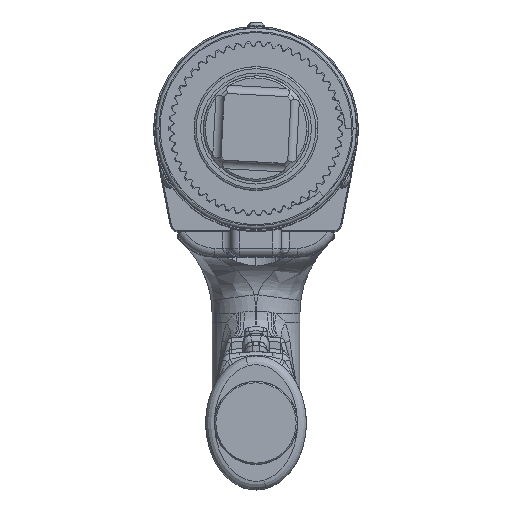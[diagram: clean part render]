
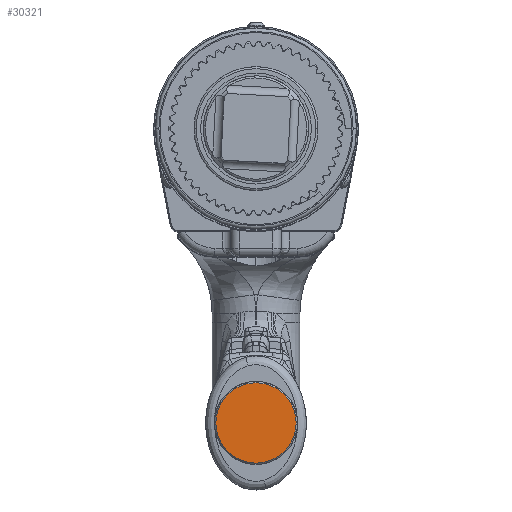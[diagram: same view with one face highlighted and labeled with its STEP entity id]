
A CAD part, top view. The second image highlights one B-rep face of the part: STEP entity #30321.
In plain terms, the highlighted planar face has unit normal (0, 0, 1).
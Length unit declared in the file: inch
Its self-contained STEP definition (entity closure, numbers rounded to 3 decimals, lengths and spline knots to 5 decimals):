
#1839 = AXIS2_PLACEMENT_3D ( 'NONE', #120092, #112568, #132232 ) ;
#11779 = EDGE_CURVE ( 'NONE', #92401, #23518, #59606, .T. ) ;
#23518 = VERTEX_POINT ( 'NONE', #26467 ) ;
#26467 = CARTESIAN_POINT ( 'NONE',  ( 0.5995, -4.38938, 2.05527 ) ) ;
#30321 = ADVANCED_FACE ( 'NONE', ( #105706 ), #67898, .T. ) ;
#34819 = ORIENTED_EDGE ( 'NONE', *, *, #34955, .T. ) ;
#34955 = EDGE_CURVE ( 'NONE', #23518, #92401, #53998, .T. ) ;
#37447 = CARTESIAN_POINT ( 'NONE',  ( -0.5995, -4.38938, 2.05527 ) ) ;
#42757 = ORIENTED_EDGE ( 'NONE', *, *, #11779, .T. ) ;
#43035 = DIRECTION ( 'NONE',  ( 0., 0., 1. ) ) ;
#44778 = AXIS2_PLACEMENT_3D ( 'NONE', #104344, #43035, #114605 ) ;
#53998 = CIRCLE ( 'NONE', #44778, 0.5995 ) ;
#59606 = CIRCLE ( 'NONE', #1839, 0.5995 ) ;
#66409 = DIRECTION ( 'NONE',  ( 1., 0., 0. ) ) ;
#66549 = DIRECTION ( 'NONE',  ( 0., 0., 1. ) ) ;
#66728 = CARTESIAN_POINT ( 'NONE',  ( 0., -4.38938, 2.05527 ) ) ;
#67898 = PLANE ( 'NONE',  #89827 ) ;
#89827 = AXIS2_PLACEMENT_3D ( 'NONE', #66728, #66549, #66409 ) ;
#92401 = VERTEX_POINT ( 'NONE', #37447 ) ;
#104344 = CARTESIAN_POINT ( 'NONE',  ( 0., -4.38938, 2.05527 ) ) ;
#105706 = FACE_OUTER_BOUND ( 'NONE', #117362, .T. ) ;
#112568 = DIRECTION ( 'NONE',  ( 0., 0., 1. ) ) ;
#114605 = DIRECTION ( 'NONE',  ( 1., 0., 0. ) ) ;
#117362 = EDGE_LOOP ( 'NONE', ( #42757, #34819 ) ) ;
#120092 = CARTESIAN_POINT ( 'NONE',  ( 0., -4.38938, 2.05527 ) ) ;
#132232 = DIRECTION ( 'NONE',  ( 1., 0., 0. ) ) ;
